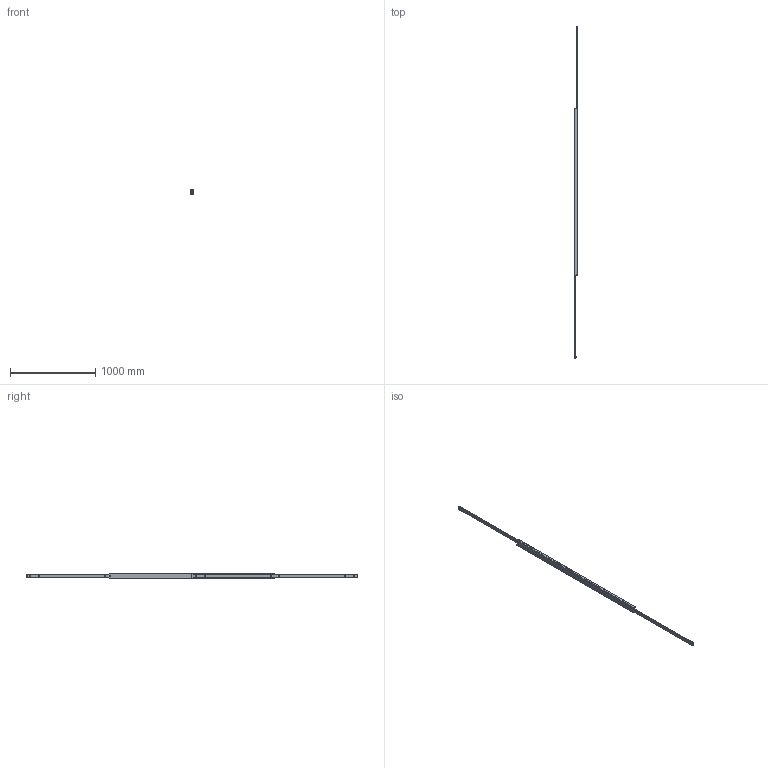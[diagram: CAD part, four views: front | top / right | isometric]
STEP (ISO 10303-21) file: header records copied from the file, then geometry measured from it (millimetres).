
FILE_DESCRIPTION(/* description */ (''),/* implementation_level */ '2;1');
FILE_NAME(/* name */ 'D:\Zeichnungen Schienen Komplett\MX-DTP70\MX-DTP70.195\MX-DTP70.195_ausgefahren.step',/* time_stamp */ '2022-08-31T09:08:09+02:00',/* author */ ('zmile'),/* organization */ (''),/* preprocessor_version */ 'ST-DEVELOPER v16.13',/* originating_system */ 'AutoCAD Mechanical',/* authorisation */ '');
FILE_SCHEMA (('AUTOMOTIVE_DESIGN { 1 0 10303 214 3 1 1 }'));
Products named in the file (1): Product
Bounding box: 32 x 3900 x 70 mm (x, y, z)
Volume: 3471164 mm3; surface area: 1231700.1 mm2
Topology: 135 solids, 135 shells, 474 faces, 1360 edges, 904 vertices
Faces by surface type: cylinder 168, sphere 128, plane 86, bspline 86, torus 6
Full cylindrical faces by diameter (mm): 9 x128, 13 x2
Entity records: 197183 total; most frequent: CARTESIAN_POINT 186173, DIRECTION 1942, ORIENTED_EDGE 1932, EDGE_CURVE 966, EDGE_LOOP 922, VERTEX_POINT 902, AXIS2_PLACEMENT_3D 865, FACE_OUTER_BOUND 474
